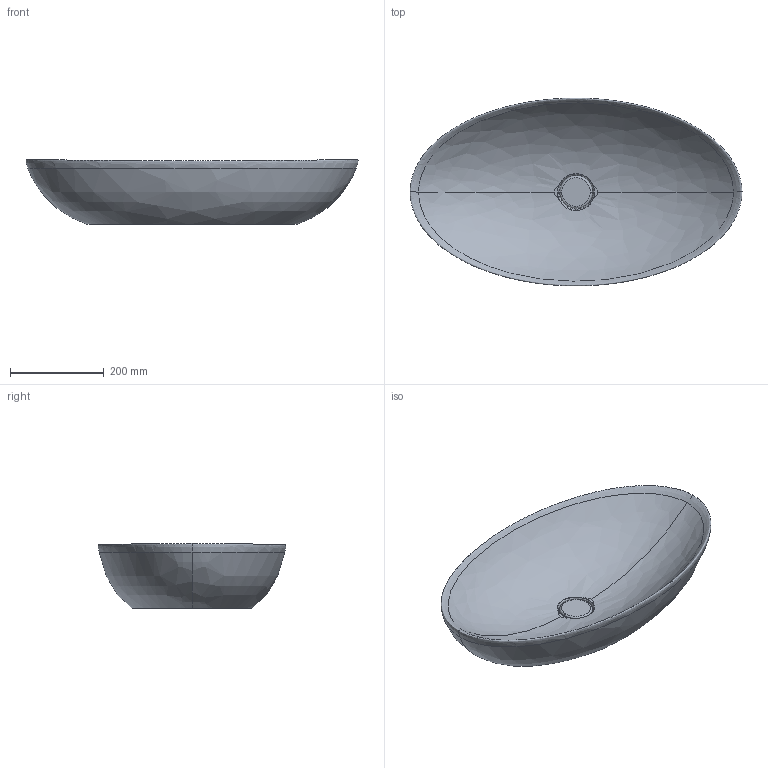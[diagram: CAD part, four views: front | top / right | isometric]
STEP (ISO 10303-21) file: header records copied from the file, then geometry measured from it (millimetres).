
FILE_DESCRIPTION(/* description */ (''),/* implementation_level */ '2;1');
FILE_NAME(/* name */ 'FLAT_3',/* time_stamp */ '2020-11-13T16:51:44+01:00',/* author */ (''),/* organization */ (''),/* preprocessor_version */ 'ST-DEVELOPER v15',/* originating_system */ '',/* authorisation */ '');
FILE_SCHEMA (('AUTOMOTIVE_DESIGN'));
Length unit declared in the file: millimetre
Products named in the file (1): Document
Bounding box: 707.8 x 400.51 x 138.66 mm (x, y, z)
Volume: 10022149.7 mm3; surface area: 636981.1 mm2
Topology: 2 solids, 2 shells, 18 faces, 38 edges, 24 vertices
Faces by surface type: bspline 12, plane 6
Entity records: 1883 total; most frequent: CARTESIAN_POINT 1622, ORIENTED_EDGE 76, EDGE_CURVE 38, VERTEX_POINT 24, ADVANCED_FACE 18, FACE_OUTER_BOUND 18, EDGE_LOOP 18, DIRECTION 10
